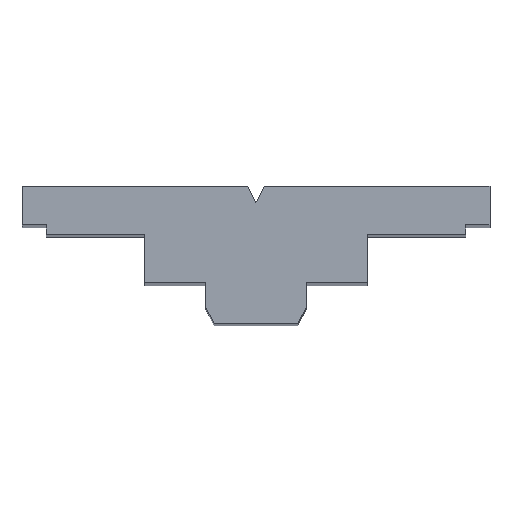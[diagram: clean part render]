
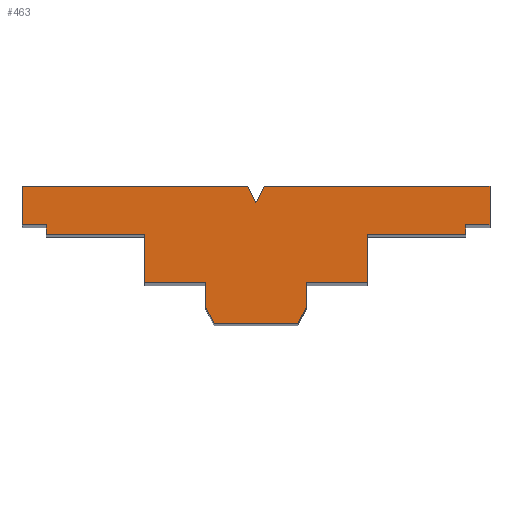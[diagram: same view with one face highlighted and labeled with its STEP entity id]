
A CAD part, top view. The second image highlights one B-rep face of the part: STEP entity #463.
In plain terms, the highlighted planar face has unit normal (0, 0, 1).
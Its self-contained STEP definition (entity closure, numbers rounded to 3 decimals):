
#37=FACE_OUTER_BOUND('',#60,.T.);
#60=EDGE_LOOP('',(#397,#398,#399,#400,#401,#402,#403,#404,#405,#406,#407,
#408,#409,#410,#411,#412,#413,#414,#415,#416,#417));
#61=LINE('',#604,#124);
#65=LINE('',#612,#128);
#68=LINE('',#618,#131);
#71=LINE('',#624,#134);
#74=LINE('',#630,#137);
#77=LINE('',#636,#140);
#80=LINE('',#642,#143);
#83=LINE('',#648,#146);
#86=LINE('',#654,#149);
#89=LINE('',#660,#152);
#92=LINE('',#666,#155);
#95=LINE('',#672,#158);
#98=LINE('',#678,#161);
#101=LINE('',#684,#164);
#104=LINE('',#690,#167);
#107=LINE('',#696,#170);
#110=LINE('',#702,#173);
#113=LINE('',#708,#176);
#116=LINE('',#714,#179);
#119=LINE('',#720,#182);
#122=LINE('',#725,#185);
#124=VECTOR('',#493,10.);
#128=VECTOR('',#499,10.);
#131=VECTOR('',#504,10.);
#134=VECTOR('',#509,10.);
#137=VECTOR('',#514,10.);
#140=VECTOR('',#519,10.);
#143=VECTOR('',#524,10.);
#146=VECTOR('',#529,10.);
#149=VECTOR('',#534,10.);
#152=VECTOR('',#539,10.);
#155=VECTOR('',#544,10.);
#158=VECTOR('',#549,10.);
#161=VECTOR('',#554,10.);
#164=VECTOR('',#559,10.);
#167=VECTOR('',#564,10.);
#170=VECTOR('',#569,10.);
#173=VECTOR('',#574,10.);
#176=VECTOR('',#579,10.);
#179=VECTOR('',#584,10.);
#182=VECTOR('',#589,10.);
#185=VECTOR('',#594,10.);
#187=VERTEX_POINT('',#602);
#188=VERTEX_POINT('',#603);
#191=VERTEX_POINT('',#611);
#193=VERTEX_POINT('',#617);
#195=VERTEX_POINT('',#623);
#197=VERTEX_POINT('',#629);
#199=VERTEX_POINT('',#635);
#201=VERTEX_POINT('',#641);
#203=VERTEX_POINT('',#647);
#205=VERTEX_POINT('',#653);
#207=VERTEX_POINT('',#659);
#209=VERTEX_POINT('',#665);
#211=VERTEX_POINT('',#671);
#213=VERTEX_POINT('',#677);
#215=VERTEX_POINT('',#683);
#217=VERTEX_POINT('',#689);
#219=VERTEX_POINT('',#695);
#221=VERTEX_POINT('',#701);
#223=VERTEX_POINT('',#707);
#225=VERTEX_POINT('',#713);
#227=VERTEX_POINT('',#719);
#229=EDGE_CURVE('',#187,#188,#61,.T.);
#233=EDGE_CURVE('',#188,#191,#65,.T.);
#236=EDGE_CURVE('',#191,#193,#68,.T.);
#239=EDGE_CURVE('',#193,#195,#71,.T.);
#242=EDGE_CURVE('',#195,#197,#74,.T.);
#245=EDGE_CURVE('',#197,#199,#77,.T.);
#248=EDGE_CURVE('',#199,#201,#80,.T.);
#251=EDGE_CURVE('',#201,#203,#83,.T.);
#254=EDGE_CURVE('',#203,#205,#86,.T.);
#257=EDGE_CURVE('',#205,#207,#89,.T.);
#260=EDGE_CURVE('',#207,#209,#92,.T.);
#263=EDGE_CURVE('',#209,#211,#95,.T.);
#266=EDGE_CURVE('',#211,#213,#98,.T.);
#269=EDGE_CURVE('',#213,#215,#101,.T.);
#272=EDGE_CURVE('',#215,#217,#104,.T.);
#275=EDGE_CURVE('',#217,#219,#107,.T.);
#278=EDGE_CURVE('',#219,#221,#110,.T.);
#281=EDGE_CURVE('',#221,#223,#113,.T.);
#284=EDGE_CURVE('',#223,#225,#116,.T.);
#287=EDGE_CURVE('',#225,#227,#119,.T.);
#290=EDGE_CURVE('',#227,#187,#122,.T.);
#397=ORIENTED_EDGE('',*,*,#229,.F.);
#398=ORIENTED_EDGE('',*,*,#290,.F.);
#399=ORIENTED_EDGE('',*,*,#287,.F.);
#400=ORIENTED_EDGE('',*,*,#284,.F.);
#401=ORIENTED_EDGE('',*,*,#281,.F.);
#402=ORIENTED_EDGE('',*,*,#278,.F.);
#403=ORIENTED_EDGE('',*,*,#275,.F.);
#404=ORIENTED_EDGE('',*,*,#272,.F.);
#405=ORIENTED_EDGE('',*,*,#269,.F.);
#406=ORIENTED_EDGE('',*,*,#266,.F.);
#407=ORIENTED_EDGE('',*,*,#263,.F.);
#408=ORIENTED_EDGE('',*,*,#260,.F.);
#409=ORIENTED_EDGE('',*,*,#257,.F.);
#410=ORIENTED_EDGE('',*,*,#254,.F.);
#411=ORIENTED_EDGE('',*,*,#251,.F.);
#412=ORIENTED_EDGE('',*,*,#248,.F.);
#413=ORIENTED_EDGE('',*,*,#245,.F.);
#414=ORIENTED_EDGE('',*,*,#242,.F.);
#415=ORIENTED_EDGE('',*,*,#239,.F.);
#416=ORIENTED_EDGE('',*,*,#236,.F.);
#417=ORIENTED_EDGE('',*,*,#233,.F.);
#440=PLANE('',#488);
#463=ADVANCED_FACE('',(#37),#440,.T.);
#488=AXIS2_PLACEMENT_3D('',#728,#598,#599);
#493=DIRECTION('',(0.,1.,0.));
#499=DIRECTION('',(-1.,0.,0.));
#504=DIRECTION('',(0.,1.,0.));
#509=DIRECTION('',(1.,0.,0.));
#514=DIRECTION('',(0.447,-0.894,0.));
#519=DIRECTION('',(0.447,0.894,0.));
#524=DIRECTION('',(1.,0.,0.));
#529=DIRECTION('',(0.,-1.,0.));
#534=DIRECTION('',(-1.,0.,0.));
#539=DIRECTION('',(0.,-1.,0.));
#544=DIRECTION('',(-1.,0.,0.));
#549=DIRECTION('',(0.,-1.,0.));
#554=DIRECTION('',(-1.,0.,0.));
#559=DIRECTION('',(0.,-1.,0.));
#564=DIRECTION('',(-0.447,-0.894,0.));
#569=DIRECTION('',(-1.,0.,0.));
#574=DIRECTION('',(-0.447,0.894,0.));
#579=DIRECTION('',(0.,1.,0.));
#584=DIRECTION('',(-1.,0.,0.));
#589=DIRECTION('',(0.,1.,0.));
#594=DIRECTION('',(-1.,0.,0.));
#598=DIRECTION('center_axis',(0.,0.,1.));
#599=DIRECTION('ref_axis',(1.,0.,0.));
#602=CARTESIAN_POINT('',(3.109,7.371,100.));
#603=CARTESIAN_POINT('',(3.109,7.971,100.));
#604=CARTESIAN_POINT('',(3.109,7.971,100.));
#611=CARTESIAN_POINT('',(1.609,7.971,100.));
#612=CARTESIAN_POINT('',(1.609,7.971,100.));
#617=CARTESIAN_POINT('',(1.609,10.371,100.));
#618=CARTESIAN_POINT('',(1.609,10.371,100.));
#623=CARTESIAN_POINT('',(15.609,10.371,100.));
#624=CARTESIAN_POINT('',(15.609,10.371,100.));
#629=CARTESIAN_POINT('',(16.109,9.371,100.));
#630=CARTESIAN_POINT('',(16.109,9.371,100.));
#635=CARTESIAN_POINT('',(16.609,10.371,100.));
#636=CARTESIAN_POINT('',(16.609,10.371,100.));
#641=CARTESIAN_POINT('',(30.609,10.371,100.));
#642=CARTESIAN_POINT('',(30.609,10.371,100.));
#647=CARTESIAN_POINT('',(30.609,7.971,100.));
#648=CARTESIAN_POINT('',(30.609,7.971,100.));
#653=CARTESIAN_POINT('',(29.109,7.971,100.));
#654=CARTESIAN_POINT('',(29.109,7.971,100.));
#659=CARTESIAN_POINT('',(29.109,7.371,100.));
#660=CARTESIAN_POINT('',(29.109,7.371,100.));
#665=CARTESIAN_POINT('',(23.009,7.371,100.));
#666=CARTESIAN_POINT('',(23.009,7.371,100.));
#671=CARTESIAN_POINT('',(23.009,4.371,100.));
#672=CARTESIAN_POINT('',(23.009,4.371,100.));
#677=CARTESIAN_POINT('',(19.209,4.371,100.));
#678=CARTESIAN_POINT('',(19.209,4.371,100.));
#683=CARTESIAN_POINT('',(19.209,2.871,100.));
#684=CARTESIAN_POINT('',(19.209,2.871,100.));
#689=CARTESIAN_POINT('',(18.709,1.871,100.));
#690=CARTESIAN_POINT('',(18.709,1.871,100.));
#695=CARTESIAN_POINT('',(13.509,1.871,100.));
#696=CARTESIAN_POINT('',(13.509,1.871,100.));
#701=CARTESIAN_POINT('',(13.009,2.871,100.));
#702=CARTESIAN_POINT('',(13.009,2.871,100.));
#707=CARTESIAN_POINT('',(13.009,4.371,100.));
#708=CARTESIAN_POINT('',(13.009,4.371,100.));
#713=CARTESIAN_POINT('',(9.209,4.371,100.));
#714=CARTESIAN_POINT('',(9.209,4.371,100.));
#719=CARTESIAN_POINT('',(9.209,7.371,100.));
#720=CARTESIAN_POINT('',(9.209,7.371,100.));
#725=CARTESIAN_POINT('',(3.109,7.371,100.));
#728=CARTESIAN_POINT('Origin',(16.109,7.604,100.));
